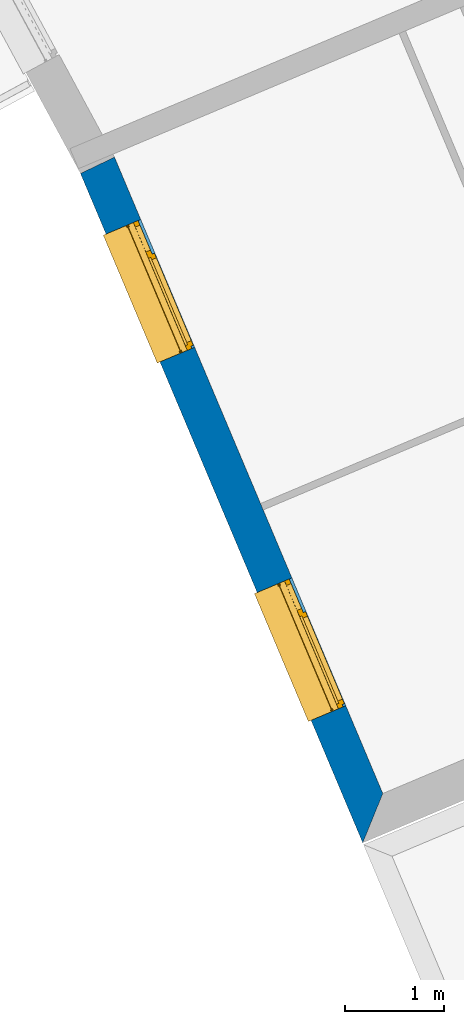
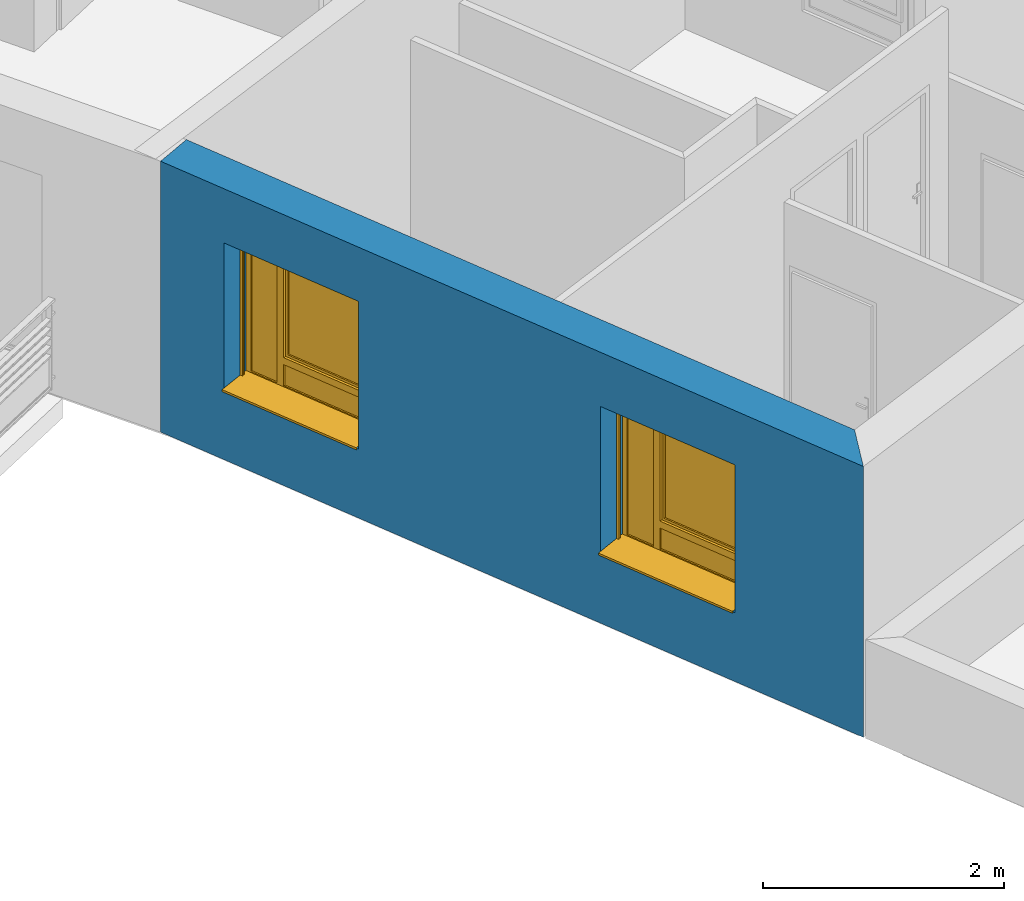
# One storey, part 49 of 121: 2 windows, 1 wall, 2 openings.
"""IFC2X3 building model written with IfcOpenShell, lengths in metres."""

from ifc_helpers import new_model, entity, si_unit, converted_unit, derived_unit, money_unit, direction, frame, origin_with_axes, place, context, subcontext, project, spatial, polyline, outline, extrude, open_shell, faceted_brep, surface_model, source, transform, mapped, material, layer, layer_set, layer_usage, type_object, element, fill, save


model = new_model("IFC2X3")

# Units and contexts
model_context = context("Model", 3, precision=1e-05, world=origin_with_axes(), true_north=direction((0.0, 1.0)))
body_context = subcontext(model_context, "Body", "Model", "MODEL_VIEW")
ifc_project = project(units=[si_unit("LENGTHUNIT", "METRE"), si_unit("AREAUNIT", "SQUARE_METRE"), si_unit("VOLUMEUNIT", "CUBIC_METRE"), converted_unit("PLANEANGLEUNIT", "DEGREE", entity("IfcPlaneAngleMeasure", 0.0174532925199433), si_unit("PLANEANGLEUNIT", "RADIAN"), dimensions=[0, 0, 0, 0, 0, 0, 0]), money_unit("CHF"), converted_unit("TIMEUNIT", "Year", entity("IfcTimeMeasure", 31557600.0), si_unit("TIMEUNIT", "SECOND"), dimensions=[0, 0, 1, 0, 0, 0, 0]), si_unit("MASSUNIT", "GRAM", prefix="KILO"), si_unit("THERMODYNAMICTEMPERATUREUNIT", "DEGREE_CELSIUS"), si_unit("LUMINOUSINTENSITYUNIT", "LUMEN"), si_unit("ENERGYUNIT", "JOULE", prefix="MEGA"), derived_unit("THERMALCONDUCTANCEUNIT", [(si_unit("POWERUNIT", "WATT"), 1), (si_unit("LENGTHUNIT", "METRE"), -1), (si_unit("THERMODYNAMICTEMPERATUREUNIT", "KELVIN"), -1)]), derived_unit("SPECIFICHEATCAPACITYUNIT", [(si_unit("ENERGYUNIT", "JOULE"), 1), (si_unit("MASSUNIT", "GRAM", prefix="KILO"), -1), (si_unit("THERMODYNAMICTEMPERATUREUNIT", "KELVIN"), -1)]), derived_unit("MASSDENSITYUNIT", [(si_unit("MASSUNIT", "GRAM", prefix="KILO"), 1), (si_unit("VOLUMEUNIT", "CUBIC_METRE"), -1)])], contexts=[model_context])

# Site, building, storey
site_placement = place(None, origin_with_axes())
site = spatial("IfcSite", under=ifc_project, at=site_placement, Name="Site", CompositionType="ELEMENT")
building_placement = place(site_placement, origin_with_axes())
building = spatial("IfcBuilding", under=site, at=building_placement, Name="Bâtiment", CompositionType="ELEMENT")
storey_placement = place(building_placement, frame((0.0, 0.0, 2.75), z_axis=(0.0, 0.0, 1.0), x_axis=(1.0, 0.0, 0.0)))
storey = spatial("IfcBuildingStorey", under=building, at=storey_placement, Name="Etage 1", CompositionType="ELEMENT", Elevation=2.75)

# Wall, openings, windows
ifc_material_1 = material(Name="Parpaing 312445824")
ifc_layer_1 = layer(ifc_material_1, 0.22, ventilated="UNKNOWN")
ifc_material_2 = material(Name="Isolant styromousse 301821074")
ifc_layer_2 = layer(ifc_material_2, 0.16, ventilated="UNKNOWN")
ifc_layer_set = layer_set([ifc_layer_1, ifc_layer_2], Name="isol int 22+16 0836643197")
ifc_layer_usage = layer_usage(ifc_layer_set, "AXIS2", "NEGATIVE", 0.0)
wall_type = type_object("IfcWallType", Name="isol int 22+16 0836643197 380", PredefinedType="NOTDEFINED")
wall_placement = place(storey_placement, frame((9563.280230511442, -1045.319105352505, 57.7), z_axis=(0.0, 0.0, 1.0), x_axis=(-0.3885669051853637, 0.9214205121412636, 0.0)))
wall = element("IfcWallStandardCase", 1, at=wall_placement, inside=storey, type_object=wall_type, material=ifc_layer_usage, Name="Mur-114", context=body_context, shape_type="SweptSolid", body=[
    extrude(outline(polyline([(0.3799999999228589, -0.3799999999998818), (7.349577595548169, -0.3799999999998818), (7.3312758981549, 0.0), (0.0, 0.0), (0.3799999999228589, -0.3799999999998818)])), origin_with_axes(), (0.0, 0.0, 1.0), 2.75),
])
opening_1_placement = place(wall_placement, frame((2.041892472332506, 0.0, 0.7000000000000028), z_axis=(0.0, 0.0, 1.0), x_axis=(1.0, 0.0, 0.0)))
opening_1 = element("IfcOpeningElement", 2, at=opening_1_placement, cuts=wall, Name="Fen-045", context=body_context, shape_type="Brep", body=[
    faceted_brep([(0.6999999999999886, -0.4800000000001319, 1.5), (-0.6999999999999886, -0.4800000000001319, 1.5), (-0.6999999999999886, -3.005842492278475, 1.5), (0.6999999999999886, -3.005842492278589, 1.5), (0.6999999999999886, -0.4800000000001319, 1.700000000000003), (-0.6999999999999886, -0.4800000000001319, 1.700000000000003), (-0.6999999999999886, -0.3000000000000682, 1.5), (-0.6999999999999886, -0.3000000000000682, 0.0), (-0.6999999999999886, -3.005842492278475, 0.0), (0.6999999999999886, -3.005842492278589, 0.0), (0.6999999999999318, -0.3000000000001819, 1.5), (0.6999999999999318, -0.3000000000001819, 0.0), (0.6999999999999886, -0.2200000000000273, 1.5), (0.6999999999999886, -0.2200000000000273, 1.700000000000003), (-0.7000000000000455, -0.2200000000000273, 1.700000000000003), (-0.7000000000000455, -0.2200000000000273, 1.5), (-0.6999999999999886, 2.62584249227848, 1.5), (-0.6999999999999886, 2.62584249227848, 0.0), (0.6999999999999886, 2.625842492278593, 0.0), (0.6999999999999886, 2.625842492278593, 1.5)], [[[0, 1, 2, 3]], [[1, 0, 4, 5]], [[1, 6, 7, 8, 2]], [[2, 8, 9, 3]], [[10, 0, 3, 9, 11]], [[0, 10, 12, 13, 4]], [[4, 13, 14, 5]], [[6, 1, 5, 14, 15]], [[6, 15, 16, 17, 7]], [[7, 11, 9, 8]], [[12, 10, 11, 18, 19]], [[12, 15, 14, 13]], [[15, 12, 19, 16]], [[19, 18, 17, 16]], [[11, 7, 17, 18]]]),
])
opening_2_placement = place(wall_placement, frame((5.96736160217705, 0.0, 0.7000000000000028), z_axis=(0.0, 0.0, 1.0), x_axis=(1.0, 0.0, 0.0)))
opening_2 = element("IfcOpeningElement", 3, at=opening_2_placement, cuts=wall, Name="Fen-045", context=body_context, shape_type="Brep", body=[
    faceted_brep([(0.6999999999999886, -0.4800000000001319, 1.5), (-0.7000000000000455, -0.4800000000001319, 1.5), (-0.7000000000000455, -3.005842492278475, 1.5), (0.6999999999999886, -3.005842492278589, 1.5), (0.6999999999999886, -0.4800000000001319, 1.700000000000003), (-0.7000000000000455, -0.4800000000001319, 1.700000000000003), (-0.7000000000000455, -0.3000000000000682, 1.5), (-0.7000000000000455, -0.3000000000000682, 0.0), (-0.7000000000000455, -3.005842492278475, 0.0), (0.6999999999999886, -3.005842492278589, 0.0), (0.6999999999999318, -0.3000000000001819, 1.5), (0.6999999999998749, -0.3000000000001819, 0.0), (0.6999999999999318, -0.2200000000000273, 1.5), (0.6999999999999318, -0.2200000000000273, 1.700000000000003), (-0.7000000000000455, -0.2200000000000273, 1.700000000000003), (-0.7000000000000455, -0.2200000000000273, 1.5), (-0.7000000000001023, 2.62584249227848, 1.5), (-0.7000000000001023, 2.62584249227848, 0.0), (0.6999999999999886, 2.62584249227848, 0.0), (0.6999999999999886, 2.62584249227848, 1.5)], [[[0, 1, 2, 3]], [[1, 0, 4, 5]], [[1, 6, 7, 8, 2]], [[2, 8, 9, 3]], [[10, 0, 3, 9, 11]], [[0, 10, 12, 13, 4]], [[4, 13, 14, 5]], [[6, 1, 5, 14, 15]], [[6, 15, 16, 17, 7]], [[7, 11, 9, 8]], [[12, 10, 11, 18, 19]], [[12, 15, 14, 13]], [[15, 12, 19, 16]], [[19, 18, 17, 16]], [[11, 7, 17, 18]]]),
])
window_style = type_object("IfcWindowStyle", Name="Fenêtre variable 27", ConstructionType="NOTDEFINED", OperationType="TRIPLE_PANEL_LEFT", ParameterTakesPrecedence=False, Sizeable=False)
shared_shape = source(origin_with_axes(), body_context, "Body", "SurfaceModel", [
    surface_model("IfcShellBasedSurfaceModel", [(0.7, -0.05100000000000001, 0.05), (-0.7, -0.05100000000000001, 0.05000000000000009), (-0.7, -0.05100000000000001, 0.04000000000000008), (0.7, -0.05100000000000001, 0.04), (-0.7, -0.3799999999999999, 0.02900000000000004), (0.7, -0.3799999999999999, 0.02899999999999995), (-0.7, -0.3799999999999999, 0.00900000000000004), (0.7, -0.3799999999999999, 0.008999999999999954), (-0.7, -0.3699999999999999, 0.01900000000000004), (0.7, -0.3699999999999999, 0.01899999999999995)], [open_shell([[[0, 1, 2, 3]], [[3, 2, 4, 5]], [[5, 4, 6, 7]], [[7, 6, 8, 9]]])]),
    faceted_brep([(0.7, -0.13, 1.7), (0.7, 0.13, 1.7), (0.697, 0.13, 1.7), (0.697, -0.13, 1.7), (0.7, -0.13, 1.5), (0.7, 0.13, 1.5), (0.697, 0.13, 1.5), (0.697, -0.13, 1.5)], [[[0, 1, 2, 3]], [[0, 4, 5, 1]], [[1, 5, 6, 2]], [[3, 2, 6, 7]], [[4, 0, 3, 7]], [[5, 4, 7, 6]]]),
    faceted_brep([(-0.6970000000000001, -0.1299999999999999, 1.7), (-0.6970000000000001, 0.1300000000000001, 1.7), (-0.7000000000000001, 0.1300000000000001, 1.7), (-0.7000000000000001, -0.1299999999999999, 1.7), (-0.6970000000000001, -0.1299999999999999, 1.5), (-0.6970000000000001, 0.1300000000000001, 1.5), (-0.7000000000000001, 0.1300000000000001, 1.5), (-0.7000000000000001, -0.1299999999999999, 1.5)], [[[0, 1, 2, 3]], [[0, 4, 5, 1]], [[1, 5, 6, 2]], [[3, 2, 6, 7]], [[4, 0, 3, 7]], [[5, 4, 7, 6]]]),
    faceted_brep([(0.697, -0.13, 1.5), (0.697, -0.13, 1.7), (-0.697, -0.1299999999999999, 1.7), (-0.697, -0.1299999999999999, 1.5), (0.697, -0.127, 1.5), (0.697, -0.127, 1.697), (0.697, 0.127, 1.697), (0.697, 0.127, 1.503), (0.697, -0.108, 1.503), (0.697, -0.108, 1.5), (0.697, 0.13, 1.5), (0.697, 0.13, 1.7), (-0.697, 0.1300000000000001, 1.7), (-0.697, 0.1300000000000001, 1.5), (-0.697, -0.1079999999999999, 1.5), (-0.697, -0.1079999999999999, 1.503), (-0.697, 0.1270000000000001, 1.503), (-0.697, 0.1270000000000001, 1.697), (-0.697, -0.1269999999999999, 1.697), (-0.697, -0.1269999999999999, 1.5)], [[[0, 1, 2, 3]], [[0, 4, 5, 6, 7, 8, 9, 10, 11, 1]], [[1, 11, 12, 2]], [[3, 2, 12, 13, 14, 15, 16, 17, 18, 19]], [[4, 0, 3, 19]], [[5, 4, 19, 18]], [[6, 5, 18, 17]], [[7, 6, 17, 16]], [[8, 7, 16, 15]], [[9, 8, 15, 14]], [[10, 9, 14, 13]], [[11, 10, 13, 12]]]),
    faceted_brep([(0.694, -0.08075423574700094, 1.585760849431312), (0.694, -0.07705479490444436, 1.571954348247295), (0.694, -0.07101408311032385, 1.559), (0.694, -0.06281564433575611, 1.547291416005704), (0.694, -0.05270858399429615, 1.537184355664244), (0.694, -0.04099999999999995, 1.528985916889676), (0.694, -0.02804565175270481, 1.522945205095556), (0.694, -0.01423915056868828, 1.519245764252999), (0.694, 0.0, 1.518), (0.694, 0.01423915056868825, 1.519245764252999), (0.694, 0.02804565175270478, 1.522945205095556), (0.694, 0.04099999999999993, 1.528985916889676), (0.694, 0.05270858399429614, 1.537184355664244), (0.694, 0.06281564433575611, 1.547291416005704), (0.694, 0.07101408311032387, 1.559), (0.694, 0.07705479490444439, 1.571954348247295), (0.694, 0.08075423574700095, 1.585760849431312), (0.694, 0.0819999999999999, 1.6), (0.694, 0.08075423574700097, 1.614239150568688), (0.694, 0.0770547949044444, 1.628045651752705), (0.694, 0.07101408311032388, 1.641), (0.694, 0.06281564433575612, 1.652708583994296), (0.694, 0.05270858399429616, 1.662815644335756), (0.694, 0.04099999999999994, 1.671014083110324), (0.694, 0.02804565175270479, 1.677054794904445), (0.694, 0.01423915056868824, 1.680754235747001), (0.694, 0.0, 1.682), (0.694, -0.01423915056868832, 1.680754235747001), (0.694, -0.02804565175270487, 1.677054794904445), (0.694, -0.04100000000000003, 1.671014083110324), (0.694, -0.05270858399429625, 1.662815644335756), (0.694, -0.06281564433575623, 1.652708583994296), (0.694, -0.07101408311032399, 1.641), (0.694, -0.07705479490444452, 1.628045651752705), (0.694, -0.0807542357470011, 1.614239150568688), (0.694, -0.08200000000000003, 1.6), (-0.694, -0.08075423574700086, 1.585760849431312), (-0.694, -0.07705479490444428, 1.571954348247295), (-0.694, -0.07101408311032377, 1.559), (-0.694, -0.06281564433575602, 1.547291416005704), (-0.694, -0.05270858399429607, 1.537184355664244), (-0.694, -0.04099999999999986, 1.528985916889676), (-0.694, -0.02804565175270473, 1.522945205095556), (-0.694, -0.0142391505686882, 1.519245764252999), (-0.694, 0.0, 1.518), (-0.694, 0.01423915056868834, 1.519245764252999), (-0.694, 0.02804565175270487, 1.522945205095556), (-0.694, 0.04100000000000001, 1.528985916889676), (-0.694, 0.05270858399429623, 1.537184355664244), (-0.694, 0.06281564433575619, 1.547291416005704), (-0.694, 0.07101408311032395, 1.559), (-0.694, 0.07705479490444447, 1.571954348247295), (-0.694, 0.08075423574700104, 1.585760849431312), (-0.694, 0.08199999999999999, 1.6), (-0.694, 0.08075423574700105, 1.614239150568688), (-0.694, 0.07705479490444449, 1.628045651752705), (-0.694, 0.07101408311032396, 1.641), (-0.694, 0.0628156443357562, 1.652708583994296), (-0.694, 0.05270858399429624, 1.662815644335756), (-0.694, 0.04100000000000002, 1.671014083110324), (-0.694, 0.02804565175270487, 1.677054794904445), (-0.694, 0.01423915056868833, 1.680754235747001), (-0.694, 0.0, 1.682), (-0.694, -0.01423915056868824, 1.680754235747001), (-0.694, -0.02804565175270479, 1.677054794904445), (-0.694, -0.04099999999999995, 1.671014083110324), (-0.694, -0.05270858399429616, 1.662815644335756), (-0.694, -0.06281564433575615, 1.652708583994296), (-0.694, -0.07101408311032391, 1.641), (-0.694, -0.07705479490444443, 1.628045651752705), (-0.694, -0.08075423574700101, 1.614239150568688), (-0.694, -0.08199999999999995, 1.6)], [[[0, 1, 2, 3, 4, 5, 6, 7, 8, 9, 10, 11, 12, 13, 14, 15, 16, 17, 18, 19, 20, 21, 22, 23, 24, 25, 26, 27, 28, 29, 30, 31, 32, 33, 34, 35]], [[1, 0, 36, 37]], [[2, 1, 37, 38]], [[3, 2, 38, 39]], [[4, 3, 39, 40]], [[5, 4, 40, 41]], [[6, 5, 41, 42]], [[7, 6, 42, 43]], [[8, 7, 43, 44]], [[9, 8, 44, 45]], [[10, 9, 45, 46]], [[11, 10, 46, 47]], [[12, 11, 47, 48]], [[13, 12, 48, 49]], [[14, 13, 49, 50]], [[15, 14, 50, 51]], [[16, 15, 51, 52]], [[17, 16, 52, 53]], [[18, 17, 53, 54]], [[19, 18, 54, 55]], [[20, 19, 55, 56]], [[21, 20, 56, 57]], [[22, 21, 57, 58]], [[23, 22, 58, 59]], [[24, 23, 59, 60]], [[25, 24, 60, 61]], [[26, 25, 61, 62]], [[27, 26, 62, 63]], [[28, 27, 63, 64]], [[29, 28, 64, 65]], [[30, 29, 65, 66]], [[31, 30, 66, 67]], [[32, 31, 67, 68]], [[33, 32, 68, 69]], [[34, 33, 69, 70]], [[35, 34, 70, 71]], [[0, 35, 71, 36]], [[36, 71, 70, 69, 68, 67, 66, 65, 64, 63, 62, 61, 60, 59, 58, 57, 56, 55, 54, 53, 52, 51, 50, 49, 48, 47, 46, 45, 44, 43, 42, 41, 40, 39, 38, 37]]]),
    faceted_brep([(-0.7, -0.105, 0.03), (-0.7, -0.13, 0.03), (-0.7, -0.1299999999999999, 1.5), (-0.7, -0.1049999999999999, 1.5), (-0.6749999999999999, -0.105, 0.03), (-0.6749999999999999, -0.108, 0.03), (-0.697, -0.108, 0.03), (-0.697, -0.127, 0.03), (-0.6749999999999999, -0.127, 0.03), (-0.6749999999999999, -0.13, 0.03), (-0.6749999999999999, -0.1299999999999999, 1.5), (-0.6749999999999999, -0.1269999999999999, 1.5), (-0.697, -0.1269999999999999, 1.5), (-0.697, -0.1079999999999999, 1.5), (-0.6749999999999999, -0.1079999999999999, 1.5), (-0.6749999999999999, -0.1049999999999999, 1.5)], [[[0, 1, 2, 3]], [[0, 4, 5, 6, 7, 8, 9, 1]], [[1, 9, 10, 2]], [[3, 2, 10, 11, 12, 13, 14, 15]], [[4, 0, 3, 15]], [[5, 4, 15, 14]], [[6, 5, 14, 13]], [[7, 6, 13, 12]], [[8, 7, 12, 11]], [[9, 8, 11, 10]]]),
    faceted_brep([(0.7, -0.105, 0.03), (0.7, -0.1049999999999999, 1.5), (0.7, -0.1299999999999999, 1.5), (0.7, -0.13, 0.03), (0.6749999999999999, -0.105, 0.03), (0.6749999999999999, -0.1049999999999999, 1.5), (0.6749999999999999, -0.1079999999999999, 1.5), (0.697, -0.1079999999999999, 1.5), (0.697, -0.1269999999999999, 1.5), (0.6749999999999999, -0.1269999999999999, 1.5), (0.6749999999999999, -0.1299999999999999, 1.5), (0.6749999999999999, -0.13, 0.03), (0.6749999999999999, -0.127, 0.03), (0.697, -0.127, 0.03), (0.697, -0.108, 0.03), (0.6749999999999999, -0.108, 0.03)], [[[0, 1, 2, 3]], [[4, 5, 1, 0]], [[1, 5, 6, 7, 8, 9, 10, 2]], [[3, 2, 10, 11]], [[0, 3, 11, 12, 13, 14, 15, 4]], [[15, 6, 5, 4]], [[14, 7, 6, 15]], [[13, 8, 7, 14]], [[12, 9, 8, 13]], [[11, 10, 9, 12]]]),
    surface_model("IfcShellBasedSurfaceModel", [(0.697, -0.115, 1.6), (-0.697, -0.1149999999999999, 1.6), (-0.697, -0.12, 1.6), (0.697, -0.12, 1.6), (0.697, -0.115, 1.6), (0.697, -0.12, 1.6), (-0.697, -0.1199999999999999, 1.6), (-0.697, -0.1149999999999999, 1.6)], [open_shell([[[0, 1, 2, 3]], [[4, 5, 6, 7]]])]),
    faceted_brep([(0.697, -0.115, 1.6), (0.697, -0.1166666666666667, 1.583333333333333), (-0.697, -0.1166666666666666, 1.583333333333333), (-0.697, -0.1149999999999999, 1.6), (0.697, -0.12, 1.6), (0.697, -0.1216666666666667, 1.583333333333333), (0.697, -0.1216666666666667, 1.566666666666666), (0.697, -0.12, 1.55), (0.697, -0.115, 1.55), (0.697, -0.1166666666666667, 1.566666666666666), (-0.697, -0.1166666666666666, 1.566666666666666), (-0.697, -0.1149999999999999, 1.55), (-0.697, -0.1199999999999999, 1.55), (-0.697, -0.1216666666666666, 1.566666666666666), (-0.697, -0.1216666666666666, 1.583333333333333), (-0.697, -0.1199999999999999, 1.6)], [[[0, 1, 2, 3]], [[0, 4, 5, 6, 7, 8, 9, 1]], [[1, 9, 10, 2]], [[3, 2, 10, 11, 12, 13, 14, 15]], [[4, 0, 3, 15]], [[5, 4, 15, 14]], [[6, 5, 14, 13]], [[7, 6, 13, 12]], [[8, 7, 12, 11]], [[9, 8, 11, 10]]]),
    faceted_brep([(0.697, -0.115, 1.55), (0.697, -0.1166666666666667, 1.533333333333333), (-0.697, -0.1166666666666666, 1.533333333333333), (-0.697, -0.1149999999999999, 1.55), (0.697, -0.12, 1.55), (0.697, -0.1216666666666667, 1.533333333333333), (0.697, -0.1216666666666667, 1.516666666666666), (0.697, -0.12, 1.5), (0.697, -0.115, 1.5), (0.697, -0.1166666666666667, 1.516666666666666), (-0.697, -0.1166666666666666, 1.516666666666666), (-0.697, -0.1149999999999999, 1.5), (-0.697, -0.1199999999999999, 1.5), (-0.697, -0.1216666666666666, 1.516666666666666), (-0.697, -0.1216666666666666, 1.533333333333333), (-0.697, -0.1199999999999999, 1.55)], [[[0, 1, 2, 3]], [[0, 4, 5, 6, 7, 8, 9, 1]], [[1, 9, 10, 2]], [[3, 2, 10, 11, 12, 13, 14, 15]], [[4, 0, 3, 15]], [[5, 4, 15, 14]], [[6, 5, 14, 13]], [[7, 6, 13, 12]], [[8, 7, 12, 11]], [[9, 8, 11, 10]]]),
    faceted_brep([(0.6749999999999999, 0.0, 1.45), (0.6749999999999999, -0.02500000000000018, 1.45), (0.6499999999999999, -0.02500000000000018, 1.45), (0.6499999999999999, -0.05000000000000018, 1.45), (0.7, -0.05000000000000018, 1.45), (0.7, 0.0, 1.45), (0.6749999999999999, 0.0, 0.3099999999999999), (0.6749999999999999, -0.02500000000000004, 0.3099999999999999), (0.6499999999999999, -0.02500000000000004, 0.335), (0.6499999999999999, -0.02500000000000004, 0.3099999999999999), (0.6499999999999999, -0.05000000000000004, 0.335), (0.6499999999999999, -0.05000000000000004, 0.265), (0.6499999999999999, -0.05000000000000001, 0.05000000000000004), (0.7, -0.05000000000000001, 0.05000000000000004), (0.7, 0.0, 0.05000000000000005), (0.6499999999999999, 0.0, 0.05000000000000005), (0.6499999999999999, 0.0, 0.265), (0.6499999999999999, 0.0, 0.3099999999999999)], [[[0, 1, 2, 3, 4, 5]], [[1, 0, 6, 7]], [[8, 2, 1, 7, 9]], [[2, 8, 10, 3]], [[10, 11, 12, 13, 4, 3]], [[5, 4, 13, 14]], [[6, 0, 5, 14, 15, 16, 17]], [[6, 17, 9, 7]], [[9, 17, 16, 11, 10, 8]], [[15, 12, 11, 16]], [[14, 13, 12, 15]]]),
    faceted_brep([(-0.3068894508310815, -0.02500000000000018, 1.45), (-0.3318894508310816, -0.02500000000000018, 1.45), (-0.3318894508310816, 0.0, 1.45), (-0.3768894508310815, 0.0, 1.45), (-0.3768894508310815, -0.05000000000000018, 1.45), (-0.3068894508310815, -0.05000000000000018, 1.45), (-0.3068894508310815, -0.02500000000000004, 0.335), (-0.3068894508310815, -0.02500000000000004, 0.3099999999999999), (-0.3318894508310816, -0.02500000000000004, 0.3099999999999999), (-0.3318894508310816, 0.0, 0.3099999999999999), (-0.3068894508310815, 0.0, 0.3099999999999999), (-0.3068894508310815, 0.0, 0.265), (-0.3068894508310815, 0.0, 0.05000000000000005), (-0.3768894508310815, 0.0, 0.05000000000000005), (-0.3768894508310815, -0.05000000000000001, 0.05000000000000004), (-0.3068894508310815, -0.05000000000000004, 0.265), (-0.3068894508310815, -0.05000000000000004, 0.335), (-0.3068894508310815, -0.05000000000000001, 0.05000000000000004)], [[[0, 1, 2, 3, 4, 5]], [[1, 0, 6, 7, 8]], [[9, 2, 1, 8]], [[9, 10, 11, 12, 13, 3, 2]], [[13, 14, 4, 3]], [[15, 16, 5, 4, 14, 17]], [[6, 0, 5, 16]], [[7, 6, 16, 15, 11, 10]], [[10, 9, 8, 7]], [[11, 15, 17, 12]], [[12, 17, 14, 13]]]),
    faceted_brep([(0.6499999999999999, -0.02500000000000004, 0.335), (-0.3068894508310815, -0.02500000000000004, 0.335), (-0.3068894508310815, -0.05000000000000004, 0.335), (0.6499999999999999, -0.05000000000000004, 0.335), (-0.3068894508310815, -0.02500000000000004, 0.3099999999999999), (0.6499999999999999, -0.02500000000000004, 0.3099999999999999), (-0.3068894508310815, 0.0, 0.3099999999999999), (-0.3068894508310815, 0.0, 0.265), (-0.3068894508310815, -0.05000000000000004, 0.265), (0.6499999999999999, -0.05000000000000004, 0.265), (0.6499999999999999, 0.0, 0.265), (0.6499999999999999, 0.0, 0.3099999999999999)], [[[0, 1, 2, 3]], [[4, 1, 0, 5]], [[4, 6, 7, 8, 2, 1]], [[2, 8, 9, 3]], [[5, 0, 3, 9, 10, 11]], [[11, 6, 4, 5]], [[6, 11, 10, 7]], [[10, 9, 8, 7]]]),
    faceted_brep([(0.6749999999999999, 0.0, 1.45), (0.6749999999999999, 0.0, 1.475), (-0.3318894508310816, 0.0, 1.475), (-0.3318894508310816, 0.0, 1.45), (-0.3768894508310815, 0.0, 1.45), (-0.6499999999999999, 0.0, 1.45), (-0.7, 0.0, 1.45), (-0.7, 0.0, 1.5), (0.7, 0.0, 1.5), (0.7, 0.0, 1.45), (0.6749999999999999, -0.02500000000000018, 1.45), (0.6749999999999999, -0.02500000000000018, 1.475), (-0.3318894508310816, -0.02500000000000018, 1.475), (-0.3318894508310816, -0.02500000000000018, 1.45), (-0.3068894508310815, -0.02500000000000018, 1.45), (-0.3068894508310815, -0.05000000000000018, 1.45), (-0.3768894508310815, -0.05000000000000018, 1.45), (-0.6499999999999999, -0.05000000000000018, 1.45), (-0.7, -0.05000000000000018, 1.45), (-0.7, -0.05000000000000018, 1.5), (0.7, -0.05000000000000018, 1.5), (0.7, -0.05000000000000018, 1.45), (0.6499999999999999, -0.05000000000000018, 1.45), (0.6499999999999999, -0.02500000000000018, 1.45)], [[[0, 1, 2, 3, 4, 5, 6, 7, 8, 9]], [[1, 0, 10, 11]], [[2, 1, 11, 12]], [[3, 2, 12, 13]], [[13, 14, 15, 16, 4, 3]], [[4, 16, 17, 5]], [[5, 17, 18, 6]], [[6, 18, 19, 7]], [[7, 19, 20, 8]], [[8, 20, 21, 9]], [[10, 0, 9, 21, 22, 23]], [[14, 13, 12, 11, 10, 23]], [[14, 23, 22, 15]], [[16, 15, 22, 21, 20, 19, 18, 17]]]),
    faceted_brep([(-0.6499999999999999, -0.05000000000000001, 0.05), (-0.7, -0.05000000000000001, 0.05), (-0.7, 0.0, 0.05000000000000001), (-0.6499999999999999, 0.0, 0.05000000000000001), (-0.6499999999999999, -0.05000000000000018, 1.45), (-0.7, -0.05000000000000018, 1.45), (-0.7, 0.0, 1.45), (-0.6499999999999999, 0.0, 1.45)], [[[0, 1, 2, 3]], [[0, 4, 5, 1]], [[1, 5, 6, 2]], [[3, 2, 6, 7]], [[4, 0, 3, 7]], [[5, 4, 7, 6]]]),
    faceted_brep([(0.6499999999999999, -0.05000000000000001, 0.05), (0.7, -0.05000000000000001, 0.05), (0.7, 0.0, 0.05000000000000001), (0.6499999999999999, 0.0, 0.05000000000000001), (-0.3068894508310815, -0.05000000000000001, 0.05), (-0.3768894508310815, -0.05000000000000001, 0.05), (-0.6499999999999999, -0.05000000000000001, 0.05), (-0.7, -0.05000000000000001, 0.05), (-0.7, -0.05, 0.0), (0.7, -0.05, 0.0), (0.7, 0.0, 0.0), (-0.7, 0.0, 0.0), (-0.7, 0.0, 0.05000000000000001), (-0.6499999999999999, 0.0, 0.05000000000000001), (-0.3768894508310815, 0.0, 0.05000000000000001), (-0.3068894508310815, 0.0, 0.05000000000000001)], [[[0, 1, 2, 3]], [[0, 4, 5, 6, 7, 8, 9, 1]], [[1, 9, 10, 2]], [[3, 2, 10, 11, 12, 13, 14, 15]], [[4, 0, 3, 15]], [[5, 4, 15, 14]], [[6, 5, 14, 13]], [[7, 6, 13, 12]], [[8, 7, 12, 11]], [[9, 8, 11, 10]]]),
    faceted_brep([(0.625, -0.02500000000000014, 1.425), (0.6749999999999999, -0.02500000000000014, 1.425), (0.6749999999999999, 0.02499999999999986, 1.425), (0.625, 0.02499999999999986, 1.425), (0.625, -0.02500000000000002, 0.3599999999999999), (0.6749999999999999, -0.02500000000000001, 0.3599999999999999), (0.6749999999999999, 0.02499999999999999, 0.3599999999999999), (0.625, 0.02499999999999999, 0.3599999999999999)], [[[0, 1, 2, 3]], [[0, 4, 5, 1]], [[1, 5, 6, 2]], [[3, 2, 6, 7]], [[4, 0, 3, 7]], [[5, 4, 7, 6]]]),
    faceted_brep([(-0.2818894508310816, -0.02500000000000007, 0.3599999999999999), (-0.3318894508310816, -0.02500000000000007, 0.3599999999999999), (-0.3318894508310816, 0.02499999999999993, 0.3599999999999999), (-0.2818894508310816, 0.02499999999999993, 0.3599999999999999), (-0.2818894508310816, -0.0250000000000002, 1.425), (-0.3318894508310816, -0.0250000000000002, 1.425), (-0.3318894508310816, 0.0249999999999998, 1.425), (-0.2818894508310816, 0.0249999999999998, 1.425)], [[[0, 1, 2, 3]], [[0, 4, 5, 1]], [[1, 5, 6, 2]], [[3, 2, 6, 7]], [[4, 0, 3, 7]], [[5, 4, 7, 6]]]),
    faceted_brep([(-0.3318894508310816, -0.02500000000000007, 0.3099999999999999), (-0.3318894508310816, -0.02500000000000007, 0.3599999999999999), (-0.3318894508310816, 0.02499999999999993, 0.3599999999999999), (-0.3318894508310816, 0.02499999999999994, 0.3099999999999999), (0.6749999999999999, -0.025, 0.3099999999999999), (0.6749999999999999, -0.02500000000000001, 0.3599999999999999), (0.625, -0.02500000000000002, 0.3599999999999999), (-0.2818894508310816, -0.02500000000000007, 0.3599999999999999), (-0.2818894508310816, 0.02499999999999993, 0.3599999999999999), (0.625, 0.02499999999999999, 0.3599999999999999), (0.6749999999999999, 0.02499999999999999, 0.3599999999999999), (0.6749999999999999, 0.02499999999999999, 0.3099999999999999)], [[[0, 1, 2, 3]], [[0, 4, 5, 6, 7, 1]], [[1, 7, 8, 2]], [[3, 2, 8, 9, 10, 11]], [[4, 0, 3, 11]], [[5, 4, 11, 10]], [[6, 5, 10, 9]], [[7, 6, 9, 8]]]),
    faceted_brep([(0.6749999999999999, -0.02500000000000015, 1.475), (0.6749999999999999, -0.02500000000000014, 1.425), (0.6749999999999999, 0.02499999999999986, 1.425), (0.6749999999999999, 0.02499999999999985, 1.475), (-0.3318894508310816, -0.02500000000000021, 1.475), (-0.3318894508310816, -0.0250000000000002, 1.425), (-0.2818894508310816, -0.0250000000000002, 1.425), (0.625, -0.02500000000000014, 1.425), (0.625, 0.02499999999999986, 1.425), (-0.2818894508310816, 0.0249999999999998, 1.425), (-0.3318894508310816, 0.0249999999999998, 1.425), (-0.3318894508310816, 0.02499999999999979, 1.475)], [[[0, 1, 2, 3]], [[0, 4, 5, 6, 7, 1]], [[1, 7, 8, 2]], [[3, 2, 8, 9, 10, 11]], [[4, 0, 3, 11]], [[5, 4, 11, 10]], [[6, 5, 10, 9]], [[7, 6, 9, 8]]]),
    surface_model("IfcShellBasedSurfaceModel", [(0.625, -0.01000000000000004, 0.3599999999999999), (0.625, -0.01000000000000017, 1.425), (-0.2818894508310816, -0.01000000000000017, 1.425), (-0.2818894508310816, -0.01000000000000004, 0.3599999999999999)], [open_shell([[[0, 1, 2, 3]]])]),
    surface_model("IfcShellBasedSurfaceModel", [(0.625, 0.009999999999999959, 0.3599999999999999), (-0.2818894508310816, 0.009999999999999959, 0.3599999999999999), (-0.2818894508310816, 0.00999999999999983, 1.425), (0.625, 0.00999999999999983, 1.425)], [open_shell([[[0, 1, 2, 3]]])]),
    surface_model("IfcShellBasedSurfaceModel", [(-0.3768894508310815, -0.035, 0.05), (-0.3768894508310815, -0.03500000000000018, 1.45), (-0.65, -0.03500000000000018, 1.45), (-0.65, -0.035, 0.05)], [open_shell([[[0, 1, 2, 3]]])]),
    surface_model("IfcShellBasedSurfaceModel", [(-0.3768894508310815, -0.015, 0.05), (-0.65, -0.015, 0.05), (-0.65, -0.01500000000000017, 1.45), (-0.3768894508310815, -0.01500000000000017, 1.45)], [open_shell([[[0, 1, 2, 3]]])]),
    surface_model("IfcShellBasedSurfaceModel", [(0.6499999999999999, -0.035, 0.05), (0.6499999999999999, -0.03500000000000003, 0.265), (-0.3068894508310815, -0.03500000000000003, 0.265), (-0.3068894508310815, -0.035, 0.05)], [open_shell([[[0, 1, 2, 3]]])]),
    surface_model("IfcShellBasedSurfaceModel", [(0.6499999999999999, -0.015, 0.05), (-0.3068894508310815, -0.015, 0.05), (-0.3068894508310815, -0.01500000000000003, 0.265), (0.6499999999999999, -0.01500000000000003, 0.265)], [open_shell([[[0, 1, 2, 3]]])]),
])
window_1_placement = place(opening_2_placement, frame((0.7000000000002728, 0.0, 0.0), z_axis=(0.0, 0.0, 1.0), x_axis=(-1.0, 0.0, 0.0)))
window_1 = element("IfcWindow", 4, at=window_1_placement, inside=storey, type_object=window_style, Name="Fen-045", OverallHeight=1.5, OverallWidth=1.4, context=body_context, shape_type="MappedRepresentation", body=[
    mapped(shared_shape, transform((0.6999999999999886, 0.3499999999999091, 0.0))),
])
fill(opening_2, window_1)
window_2_placement = place(opening_1_placement, frame((0.7000000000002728, 0.0, 0.0), z_axis=(0.0, 0.0, 1.0), x_axis=(-1.0, 0.0, 0.0)))
window_2 = element("IfcWindow", 5, at=window_2_placement, inside=storey, type_object=window_style, Name="Fen-045", OverallHeight=1.5, OverallWidth=1.4, context=body_context, shape_type="MappedRepresentation", body=[
    mapped(shared_shape, transform((0.6999999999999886, 0.3500000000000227, 0.0))),
])
fill(opening_1, window_2)

save(model, "model.ifc")
